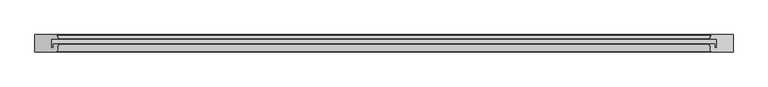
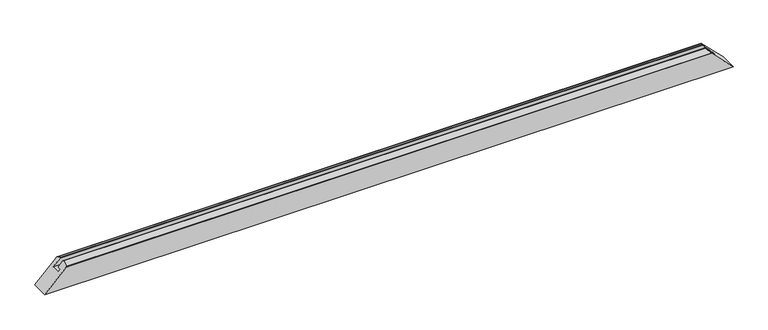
"""IFC4 building model written with IfcOpenShell, lengths in millimetres: proxy geometry, Weiku - Montante - Caixilho fixo 02.2.01.005 : Weiku - Montante - Caixilho fixo 02.2.01.005."""

from ifc_helpers import new_model, si_unit, frame, origin, place, context, project, spatial, ellipse_curve, source, transform, mapped, element, save
from ifc_brep_helpers import plane_surface, cylinder_surface, advanced_brep


def generic_models_95b5a90a(model_context):
    return source(origin(), model_context, "Body", "AdvancedBrep", [
        advanced_brep(
        [(-930.118227, 38.5070552, 66.881773), (-932.6019557, 47.7764571, 64.3980443), (-935.4997332, 50.0, 61.5002668), (-997.0, 50.0, 0.0), (-997.0, 0.0, 0.0), (-934.5355572, 0.0, 62.4644428), (-933.5489094, 0.8371317, 63.4510906), (-929.9998537, 22.3371317, 67.0001463), (-930.9865015, 23.5, 66.0134985), (-945.0009154, 23.5, 51.9990846), (-945.0009154, 12.5, 51.9990846), (-951.0, 12.5, 46.0), (-951.0, 37.5, 46.0), (-930.8909676, 37.5, 66.1090324), (932.6019557, 47.7764571, 64.3980443), (930.118227, 38.5070552, 66.881773), (930.8909676, 37.5, 66.1090324), (951.0, 37.5, 46.0), (951.0, 12.5, 46.0), (945.0009154, 12.5, 51.9990846), (945.0009154, 23.5, 51.9990846), (930.9865015, 23.5, 66.0134985), (929.9998537, 22.3371317, 67.0001463), (933.5489094, 0.8371317, 63.4510906), (934.5355572, 0.0, 62.4644428), (997.0, 0.0, 0.0), (997.0, 50.0, 0.0), (935.4997332, 50.0, 61.5002668)],
        [
            (0, 1),
            (1, 2, ellipse_curve(frame((-935.4997332, 47.0, 61.5002668), z_axis=(-0.7071067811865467, 0.0, 0.7071067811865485), x_axis=(-0.7071067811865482, 0.0, -0.7071067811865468)), 4.2426407, 3.0)),
            (2, 3),
            (3, 4),
            (4, 5),
            (5, 6, ellipse_curve(frame((-934.5355572, 1.0, 62.4644428), z_axis=(-0.7071067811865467, 0.0, 0.7071067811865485), x_axis=(-0.7071067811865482, 0.0, -0.7071067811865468)), 1.4142136, 1.0)),
            (6, 7),
            (7, 8, ellipse_curve(frame((-930.9865015, 22.5, 66.0134985), z_axis=(-0.7071067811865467, 0.0, 0.7071067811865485), x_axis=(-0.7071067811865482, 0.0, -0.7071067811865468)), 1.4142136, 1.0)),
            (8, 9),
            (9, 10),
            (10, 11),
            (11, 12),
            (12, 13),
            (13, 0, ellipse_curve(frame((-930.8909676, 38.3, 66.1090324), z_axis=(-0.7071067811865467, 0.0, 0.7071067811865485), x_axis=(-0.7071067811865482, 0.0, -0.7071067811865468)), 1.1313708, 0.8)),
            (14, 15),
            (15, 16, ellipse_curve(frame((930.8909676, 38.3, 66.1090324), z_axis=(0.7071067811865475, 0.0, 0.7071067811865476), x_axis=(-0.7071067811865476, 0.0, 0.7071067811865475)), 1.1313708, 0.8)),
            (16, 17),
            (17, 18),
            (18, 19),
            (19, 20),
            (20, 21),
            (21, 22, ellipse_curve(frame((930.9865015, 22.5, 66.0134985), z_axis=(0.7071067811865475, 0.0, 0.7071067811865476), x_axis=(-0.7071067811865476, 0.0, 0.7071067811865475)), 1.4142136, 1.0)),
            (22, 23),
            (23, 24, ellipse_curve(frame((934.5355572, 1.0, 62.4644428), z_axis=(0.7071067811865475, 0.0, 0.7071067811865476), x_axis=(-0.7071067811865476, 0.0, 0.7071067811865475)), 1.4142136, 1.0)),
            (24, 25),
            (25, 26),
            (26, 27),
            (27, 14, ellipse_curve(frame((935.4997332, 47.0, 61.5002668), z_axis=(0.7071067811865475, 0.0, 0.7071067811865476), x_axis=(-0.7071067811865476, 0.0, 0.7071067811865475)), 4.2426407, 3.0)),
            (0, 15),
            (14, 1),
            (27, 2),
            (26, 3),
            (25, 4),
            (24, 5),
            (23, 6),
            (22, 7),
            (21, 8),
            (20, 9),
            (19, 10),
            (18, 11),
            (17, 12),
            (16, 13),
        ],
        [
            plane_surface(frame((-1067.0, -15.0, -70.0), z_axis=(-0.7071067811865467, 0.0, 0.7071067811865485), x_axis=(0.0, 1.0, 0.0))),
            plane_surface(frame((927.0, -15.0, 70.0), z_axis=(0.7071067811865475, 0.0, 0.7071067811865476), x_axis=(0.0, 1.0, 0.0))),
            plane_surface(frame((-997.0, 38.5070552, 66.881773), z_axis=(0.0, 0.2588190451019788, 0.9659258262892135), x_axis=(1.0, 0.0, 0.0))),
            cylinder_surface(frame((-997.0, 47.0, 61.5002668), z_axis=(-1.0, 0.0, 0.0), x_axis=(0.0, -1.0, 0.0)), 3.0),
            plane_surface(frame((-997.0, 50.0, 61.5002668), z_axis=(0.0, 1.0, 0.0), x_axis=(1.0, 0.0, 0.0))),
            plane_surface(frame((-997.0, 50.0, 0.0), z_axis=(0.0, 0.0, -1.0), x_axis=(1.0, 0.0, 0.0))),
            plane_surface(frame((-997.0, 0.0, 0.0), z_axis=(0.0, -1.0, 0.0), x_axis=(1.0, 0.0, 0.0))),
            cylinder_surface(frame((-997.0, 1.0, 62.4644428), z_axis=(-1.0, 0.0, 0.0), x_axis=(0.0, 1.0, 0.0)), 1.0),
            plane_surface(frame((-997.0, 0.8371317, 63.4510906), z_axis=(0.0, -0.16286828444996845, 0.9866478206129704), x_axis=(1.0, 0.0, 0.0))),
            cylinder_surface(frame((-997.0, 22.5, 66.0134985), z_axis=(-1.0, 0.0, 0.0), x_axis=(0.0, 1.0, 0.0)), 1.0),
            plane_surface(frame((-997.0, 23.5, 66.0134985), z_axis=(0.0, 1.0, 0.0), x_axis=(1.0, 0.0, 0.0))),
            plane_surface(frame((-997.0, 23.5, 51.9990846), z_axis=(0.0, 0.0, -1.0), x_axis=(1.0, 0.0, 0.0))),
            plane_surface(frame((-997.0, 12.5, 51.9990846), z_axis=(0.0, 1.0, 0.0), x_axis=(1.0, 0.0, 0.0))),
            plane_surface(frame((-997.0, 12.5, 46.0), z_axis=(0.0, 0.0, 1.0), x_axis=(1.0, 0.0, 0.0))),
            plane_surface(frame((-997.0, 37.5, 46.0), z_axis=(0.0, -1.0, 0.0), x_axis=(1.0, 0.0, 0.0))),
            cylinder_surface(frame((-997.0, 38.3, 66.1090324), z_axis=(-1.0, 0.0, 0.0), x_axis=(0.0, -1.0, 0.0)), 0.8),
        ],
        [
            (0, [[1, 2, 3, 4, 5, 6, 7, 8, 9, 10, 11, 12, 13, 14]]),
            (1, [[15, 16, 17, 18, 19, 20, 21, 22, 23, 24, 25, 26, 27, 28]]),
            (2, [[-1, 29, -15, 30]]),
            (3, [[-2, -30, -28, 31]]),
            (4, [[32, -3, -31, -27]]),
            (5, [[-32, -26, 33, -4]]),
            (6, [[-33, -25, 34, -5]]),
            (7, [[-6, -34, -24, 35]]),
            (8, [[-7, -35, -23, 36]]),
            (9, [[-8, -36, -22, 37]]),
            (10, [[-9, -37, -21, 38]]),
            (11, [[-10, -38, -20, 39]]),
            (12, [[-11, -39, -19, 40]]),
            (13, [[-12, -40, -18, 41]]),
            (14, [[-13, -41, -17, 42]]),
            (15, [[-14, -42, -16, -29]]),
        ],
    ),
    ])


if __name__ == "__main__":
    model = new_model("IFC4")
    model_context = context("Model", 3, world=origin())
    ifc_project = project(units=[si_unit("LENGTHUNIT", "METRE", prefix="MILLI")], contexts=[model_context])
    site = spatial("IfcSite", under=ifc_project)
    building = spatial("IfcBuilding", under=site)
    placement = place(None, origin())
    generic_models_shape = generic_models_95b5a90a(model_context)
    element("IfcBuildingElementProxy", 1, Name="Weiku - Montante - Caixilho fixo 02.2.01.005 : Weiku - Montante - Caixilho fixo 02.2.01.005", ObjectType="Weiku - Montante - Caixilho fixo 02.2.01.005 : Weiku - Montante - Caixilho fixo 02.2.01.005", at=placement, inside=building, context=model_context, shape_type="MappedRepresentation", body=[
        mapped(generic_models_shape, transform((0.0, 0.0, 0.0), x_axis=(1.0, 0.0, 0.0), y_axis=(0.0, 1.0, 0.0), z_axis=(0.0, 0.0, 1.0))),
    ])
    save(model, "model.ifc")
